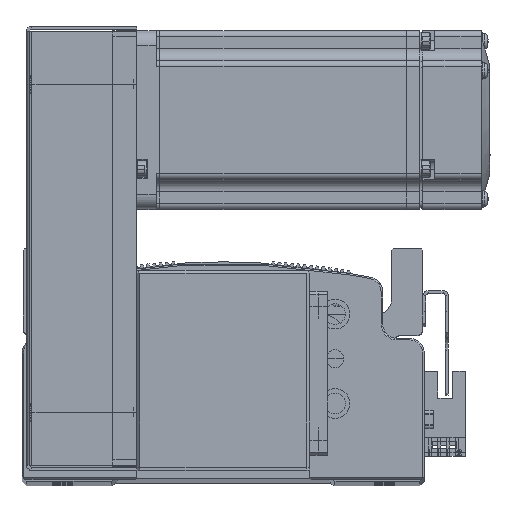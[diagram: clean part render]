
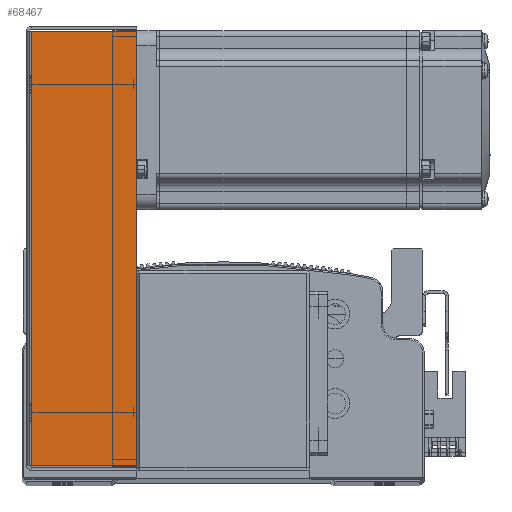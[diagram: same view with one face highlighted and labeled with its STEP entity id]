
A CAD part, top view. The second image highlights one B-rep face of the part: STEP entity #68467.
In plain terms, the highlighted planar face has unit normal (0, 0, 1).
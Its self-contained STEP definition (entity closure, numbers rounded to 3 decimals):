
#6809 = CARTESIAN_POINT ( 'NONE',  ( -72.793, 0.737, 34.5 ) ) ;
#6823 = CARTESIAN_POINT ( 'NONE',  ( 72.793, 0.737, 34.5 ) ) ;
#6842 = CARTESIAN_POINT ( 'NONE',  ( -72.793, 36., 34.5 ) ) ;
#6934 = CARTESIAN_POINT ( 'NONE',  ( 72.793, 36., 34.5 ) ) ;
#14846 = FACE_OUTER_BOUND ( 'NONE', #56712, .T. ) ;
#14845 = PLANE ( 'NONE',  #24895 ) ;
#14863 = CARTESIAN_POINT ( 'NONE',  ( 0., 0., 34.5 ) ) ;
#14882 = DIRECTION ( 'NONE',  ( -1., 0., 0. ) ) ;
#14902 = DIRECTION ( 'NONE',  ( 0., 0., -1. ) ) ;
#24895 = AXIS2_PLACEMENT_3D ( 'NONE', #14863, #14902, #14882 ) ;
#40563 = CARTESIAN_POINT ( 'NONE',  ( -72.793, 0., 34.5 ) ) ;
#40756 = DIRECTION ( 'NONE',  ( 0., 1., 0. ) ) ;
#41251 = CARTESIAN_POINT ( 'NONE',  ( 72.793, 0., 34.5 ) ) ;
#41329 = DIRECTION ( 'NONE',  ( 0., 1., 0. ) ) ;
#41567 = DIRECTION ( 'NONE',  ( -1., 0., 0. ) ) ;
#41679 = CARTESIAN_POINT ( 'NONE',  ( -74.5, 0.737, 34.5 ) ) ;
#41750 = CARTESIAN_POINT ( 'NONE',  ( 0., 36., 34.5 ) ) ;
#41756 = DIRECTION ( 'NONE',  ( -1., 0., 0. ) ) ;
#54230 = VECTOR ( 'NONE', #40756, 1000. ) ;
#54270 = LINE ( 'NONE', #40563, #54230 ) ;
#54326 = LINE ( 'NONE', #41251, #54429 ) ;
#54429 = VECTOR ( 'NONE', #41329, 1000. ) ;
#54448 = VECTOR ( 'NONE', #41567, 1000. ) ;
#54547 = LINE ( 'NONE', #41679, #54448 ) ;
#54631 = LINE ( 'NONE', #41750, #54635 ) ;
#54635 = VECTOR ( 'NONE', #41756, 1000. ) ;
#56712 = EDGE_LOOP ( 'NONE', ( #75041, #74999, #75012, #75015 ) ) ;
#68467 = ADVANCED_FACE ( 'NONE', ( #14846 ), #14845, .F. ) ;
#74999 = ORIENTED_EDGE ( 'NONE', *, *, #76203, .T. ) ;
#75012 = ORIENTED_EDGE ( 'NONE', *, *, #76261, .T. ) ;
#75015 = ORIENTED_EDGE ( 'NONE', *, *, #76156, .F. ) ;
#75041 = ORIENTED_EDGE ( 'NONE', *, *, #76244, .F. ) ;
#76156 = EDGE_CURVE ( 'NONE', #78496, #78518, #54270, .T. ) ;
#76203 = EDGE_CURVE ( 'NONE', #78551, #78614, #54326, .T. ) ;
#76244 = EDGE_CURVE ( 'NONE', #78551, #78496, #54547, .T. ) ;
#76261 = EDGE_CURVE ( 'NONE', #78614, #78518, #54631, .T. ) ;
#78496 = VERTEX_POINT ( 'NONE', #6809 ) ;
#78518 = VERTEX_POINT ( 'NONE', #6842 ) ;
#78551 = VERTEX_POINT ( 'NONE', #6823 ) ;
#78614 = VERTEX_POINT ( 'NONE', #6934 ) ;
